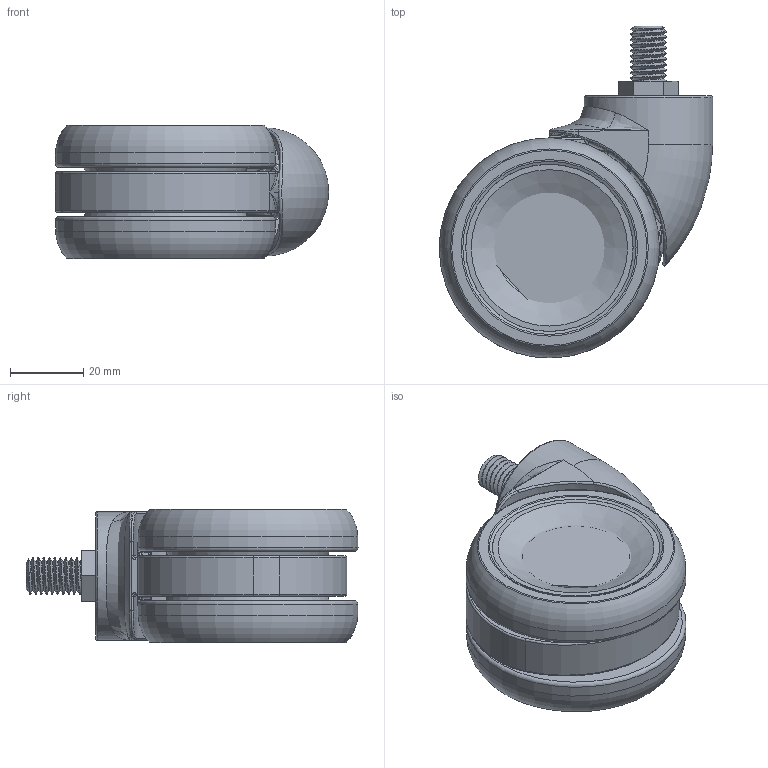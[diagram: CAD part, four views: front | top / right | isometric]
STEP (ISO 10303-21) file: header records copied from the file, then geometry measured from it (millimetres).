
FILE_DESCRIPTION (( 'STEP AP203' ), '1' );
FILE_NAME ('K09U35(M10).STEP', '2025-04-10T10:20:48', ( '' ), ( '' ), 'SwSTEP 2.0', 'SolidWorks 2025', '' );
FILE_SCHEMA (( 'CONFIG_CONTROL_DESIGN' ));
Length unit declared in the file: millimetre
Products named in the file (5): 35カバー_2; K09U35(M10); TPU車輪; 本体; M10縦軸
Assembly tree (5 placements, depth 2):
  K09U35(M10)
    本体
    M10縦軸
    TPU車輪  x2
    35カバー_2
Bounding box: 74.5 x 90.5 x 36.4 mm (x, y, z)
Volume: 84790.5 mm3; surface area: 62506.9 mm2
Topology: 9 solids, 10 shells, 721 faces, 1965 edges, 1180 vertices
Faces by surface type: plane 271, cylinder 146, bspline 121, torus 93, cone 58, sphere 32
Full cylindrical faces by diameter (mm): 2.3 x45, 7.7 x1, 9 x2, 9.4 x2, 15.6 x1, 16 x2, 16.2 x1, 17 x1, 34 x2, 34.95 x1, 35 x2, 36 x4, 36.4 x4, 38.35 x3, 44.15 x3, 46 x2, 46.95 x1, 47 x1, 54.897 x4
Entity records: 26218 total; most frequent: CARTESIAN_POINT 12404, ORIENTED_EDGE 2776, DIRECTION 2569, EDGE_CURVE 1388, AXIS2_PLACEMENT_3D 1129, VERTEX_POINT 906, EDGE_LOOP 862, FACE_OUTER_BOUND 705
